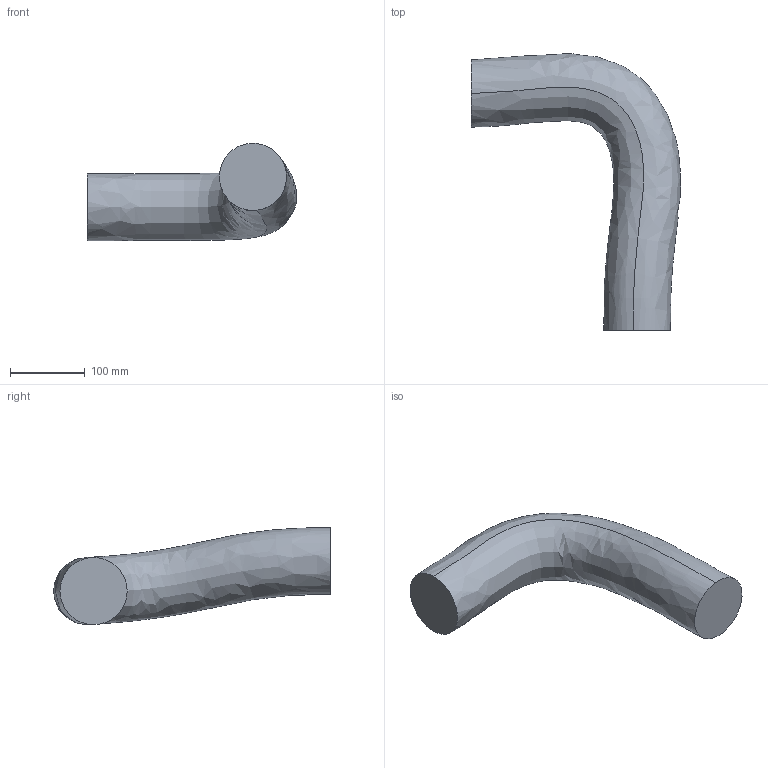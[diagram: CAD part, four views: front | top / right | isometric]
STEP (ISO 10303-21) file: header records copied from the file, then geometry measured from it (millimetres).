
FILE_DESCRIPTION (( 'STEP AP214' ), '1' );
FILE_NAME ('IRB5720-LID_90kg-300_OmniCore_rev00_LINK05_CABLE.step', '2025-07-08T10:56:25', ( '' ), ( '' ), 'SwSTEP 2.0', 'SolidWorks 2024', '' );
FILE_SCHEMA (( 'AUTOMOTIVE_DESIGN' ));
Length unit declared in the file: millimetre
Products named in the file (1): IRB5720-LID_90kg-300_OmniCore_rev00_LINK05_CABLE
Bounding box: 280.22 x 371.27 x 130.47 mm (x, y, z)
Volume: 3311458.6 mm3; surface area: 159900.1 mm2
Topology: 1 solids, 1 shells, 4 faces, 6 edges, 4 vertices
Faces by surface type: bspline 2, plane 2
Entity records: 805 total; most frequent: CARTESIAN_POINT 715, DIRECTION 14, ORIENTED_EDGE 12, AXIS2_PLACEMENT_3D 7, EDGE_CURVE 6, ADVANCED_FACE 4, CIRCLE 4, VERTEX_POINT 4
